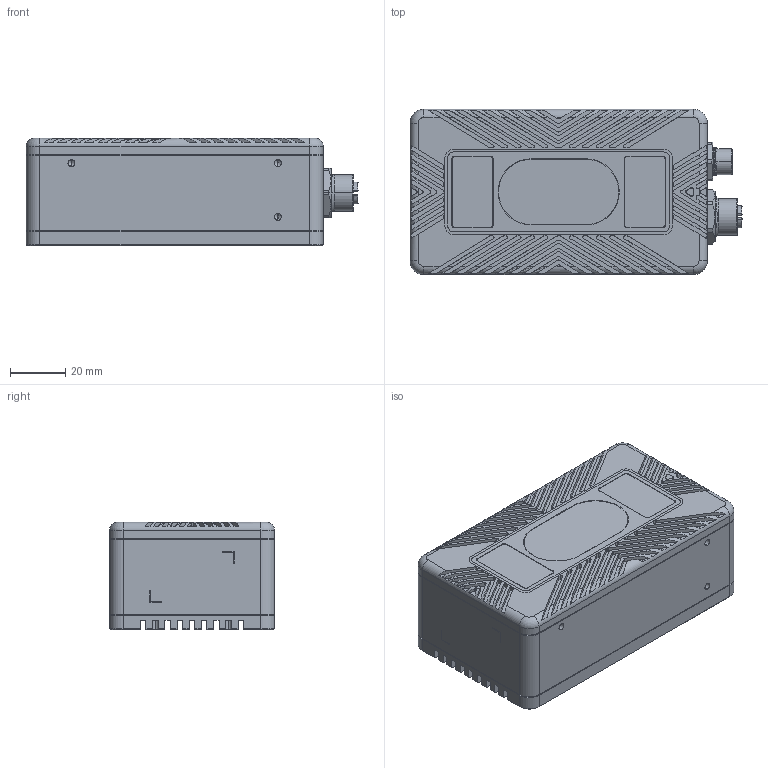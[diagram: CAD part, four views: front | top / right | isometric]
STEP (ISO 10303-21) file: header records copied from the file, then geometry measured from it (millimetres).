
FILE_DESCRIPTION (( 'STEP AP214' ), '1' );
FILE_NAME ('DM一体机装配体-大FOV-双杭插-20241218.STEP', '2024-12-18T09:33:35', ( '' ), ( '' ), 'SwSTEP 2.0', 'SolidWorks 2020', '' );
FILE_SCHEMA (( 'AUTOMOTIVE_DESIGN' ));
Length unit declared in the file: millimetre
Products named in the file (14): DM-密封圈; DM慾嫖ん敦諳え; DM-TX慾嫖ん寡蝶菜え; DM TX-PCB郪璃; M8-S8A-GWFM11; DM-絳嫖翐; DM笢褲_邧瑤脣M8+M12; DM TOF湮FOV噩芛敦諳え; DM后壳_一体散热; DMﾇｰｸﾇﾗ鮠_TOF ｴOV 108x85; DM镜头固定橡胶圈; DM前壳_TOF 大 FOV 108X85; DM一体机装配体-大FOV-双杭插-20241218; M12-S8X-GWFM16-ST
Assembly tree (15 placements, depth 3):
  DM一体机装配体-大FOV-双杭插-20241218
    DMﾇｰｸﾇﾗ鮠_TOF ｴOV 108x85
      DM前壳_TOF 大 FOV 108X85
      DM慾嫖ん敦諳え  x2
      DM-絳嫖翐
      DM TOF湮FOV噩芛敦諳え
    DM笢褲_邧瑤脣M8+M12
    DM后壳_一体散热
    DM TX-PCB郪璃
      DM镜头固定橡胶圈
      DM-TX慾嫖ん寡蝶菜え
    DM-密封圈  x2
    M8-S8A-GWFM11
    M12-S8X-GWFM16-ST
Bounding box: 120.6 x 60 x 39 mm (x, y, z)
Volume: 97541.5 mm3; surface area: 85728.4 mm2
Topology: 11 solids, 30 shells, 3162 faces, 8425 edges, 5400 vertices
Faces by surface type: plane 1201, cylinder 1035, bspline 444, cone 425, torus 57
Full cylindrical faces by diameter (mm): 8 x2, 12.1 x1
Entity records: 158308 total; most frequent: CARTESIAN_POINT 62565, ORIENTED_EDGE 16312, DIRECTION 13631, EDGE_CURVE 8173, VERTEX_POINT 5327, AXIS2_PLACEMENT_3D 4837, LINE 3957, VECTOR 3957
